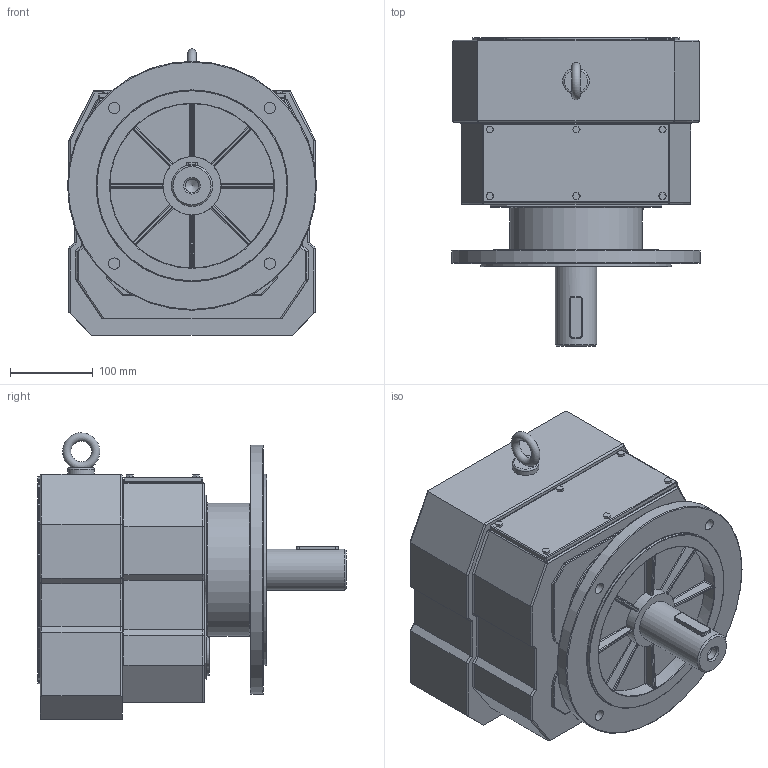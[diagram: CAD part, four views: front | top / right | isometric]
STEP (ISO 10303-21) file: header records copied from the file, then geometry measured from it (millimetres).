
FILE_DESCRIPTION((''),'2;1');
FILE_NAME('D:\PAWEŁ\ZLECENIA\2011 DualSystem\Przekładnie DR\DR80\STEP\DRF80_fi 300.stp','2012-06-11T12:14:54',('admin'),(''),'Autodesk Inventor 2009','Autodesk Inventor 2009','');
FILE_SCHEMA(('AUTOMOTIVE_DESIGN { 1 0 10303 214 1 1 1 1 }'));
Length unit declared in the file: millimetre
Products named in the file (1): DRF80_fi 300
Bounding box: 300 x 372 x 344.99 mm (x, y, z)
Volume: 17655652.1 mm3; surface area: 621119.9 mm2
Topology: 2 solids, 2 shells, 504 faces, 1206 edges, 682 vertices
Faces by surface type: cylinder 231, plane 165, sphere 44, bspline 43, torus 19, cone 2
Full cylindrical faces by diameter (mm): 32 x1, 36.667 x1, 47 x1, 50 x1, 55 x1, 70 x1, 160 x1, 198 x1, 210 x1, 230 x1, 250 x1, 300 x1
Entity records: 16863 total; most frequent: CARTESIAN_POINT 5276, DIRECTION 2486, ORIENTED_EDGE 2256, EDGE_CURVE 1128, AXIS2_PLACEMENT_3D 939, VERTEX_POINT 673, VECTOR 608, LINE 608
